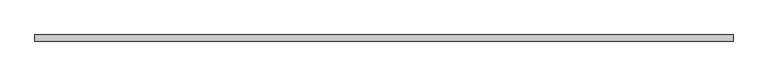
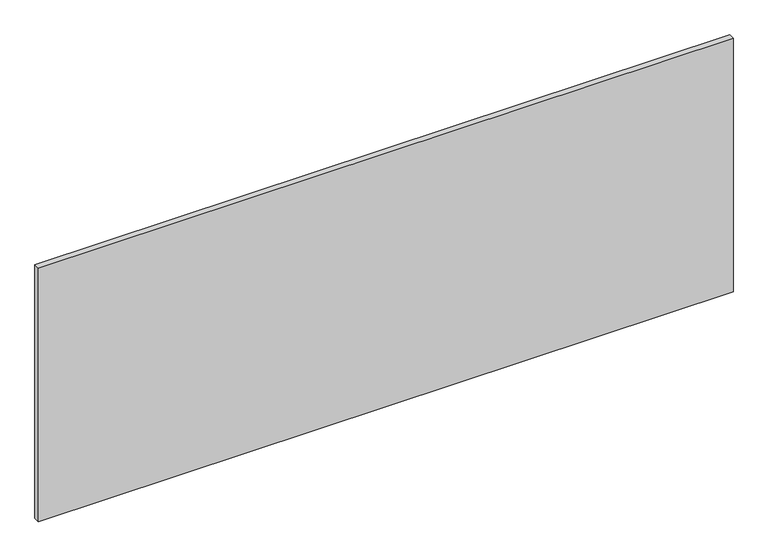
"""IFC4 building model written with IfcOpenShell, lengths in millimetres: furniture geometry, ajuste mueble - esquinas7 : ajuste mueble - esquinas."""

from ifc_helpers import new_model, si_unit, frame, origin, place, context, project, spatial, polyline, outline, extrude, source, transform, mapped, element, save


def furniture_7ccd6d22(model_context):
    return source(origin(), model_context, "Body", "SweptSolid", [
        extrude(outline(polyline([(34874.9889682, 31687.6393844), (36743.2862106, 31687.6393844), (36743.2862106, 31671.3005493), (34874.9889682, 31671.3005493), (34874.9889682, 31687.6393844)])), frame((0.0, 0.0, 3150.0), z_axis=(0.0, 0.0, 1.0), x_axis=(1.0, 0.0, 0.0)), (0.0, 0.0, 1.0), 720.0),
    ])


if __name__ == "__main__":
    model = new_model("IFC4")
    model_context = context("Model", 3, world=origin())
    ifc_project = project(units=[si_unit("LENGTHUNIT", "METRE", prefix="MILLI")], contexts=[model_context])
    site = spatial("IfcSite", under=ifc_project)
    building = spatial("IfcBuilding", under=site)
    placement = place(None, origin())
    furniture_shape = furniture_7ccd6d22(model_context)
    element("IfcFurniture", 1, ObjectType="ajuste mueble - esquinas7 : ajuste mueble - esquinas", at=placement, inside=building, context=model_context, shape_type="MappedRepresentation", body=[
        mapped(furniture_shape, transform((0.0, 0.0, 0.0), x_axis=(1.0, 0.0, 0.0), y_axis=(0.0, 1.0, 0.0), z_axis=(0.0, 0.0, 1.0))),
    ])
    save(model, "model.ifc")
